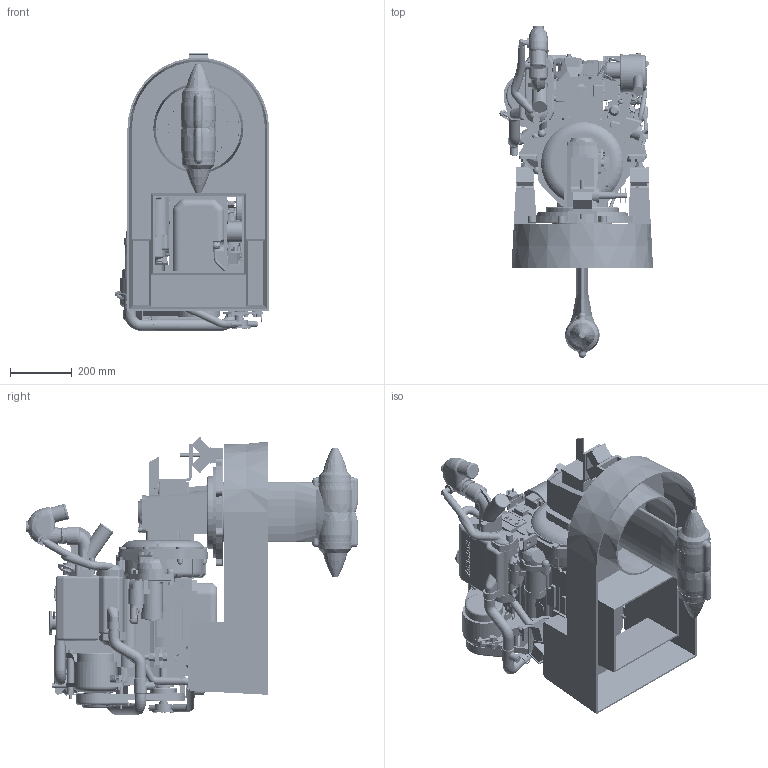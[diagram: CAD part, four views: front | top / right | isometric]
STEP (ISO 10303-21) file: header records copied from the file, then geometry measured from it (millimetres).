
FILE_DESCRIPTION((''),'2;1');
FILE_NAME('00_3YM30AE_ASM','2019-02-25T',('ib46307'),(''),'PRO/ENGINEER BY PARAMETRIC TECHNOLOGY CORPORATION, 2015360','PRO/ENGINEER BY PARAMETRIC TECHNOLOGY CORPORATION, 2015360','');
FILE_SCHEMA(('CONFIG_CONTROL_DESIGN'));
Products named in the file (116): D19E10-01100-3YM30AE-SW01-L_1; D19734-01200-3YM30AE-SW01-L_1; D28990-01300-3YM30AE-SW01-L_1; D19600-01320-3YM30AE-SW01-L_1; D28990-01400-3YM30AE-SW01-L_1; D28990-07350-3YM30AE-SW01-L_1; MANIFOLD_SOLID_BREP_29789; MANIFOLD_SOLID_BREP_31644; MANIFOLD_SOLID_BREP_33503; MANIFOLD_SOLID_BREP_35362; D28995-08100-SW01-L_1_ASM; D19E10-11110-3YM30AE-SW01-L_1; D19717-11300-3YM30AE-SW01-L_1; D28990-12300-3YM30AE-SW01-L_1; D28995-21200-SW01-L_1; D28995-21600-01-SW01-L_1; MANIFOLD_SOLID_BREP_68502; MANIFOLD_SOLID_BREP_68853; D28995-21600-02-SW01-L_1_ASM; MANIFOLD_SOLID_BREP_71430; MANIFOLD_SOLID_BREP_73693; D28990-34100-3YM30AE-SW01-L_1_ASM; D28990-34200-3YM27A-SW01-L_1; D19624-35100-3YM30AE-SW01-L_1; D19600-39100-3YM30AE-SW01-L_1; D19717-39100-3YM30AE-SW01-L_1; D19717-42100-3YM30AE-SW01-L_1; D28990-42210-3YM30AE-SW01-L_1; D28995-42500-SW01-L_1; D28990-44100-3YM30AE-SW01-L_1; MANIFOLD_SOLID_BREP_112009; MANIFOLD_SOLID_BREP_118697; MANIFOLD_SOLID_BREP_118887; D28990-49110-3YM30AE-SW02-L_3_ASM; D28990-49200-3YM30AE-SW01-L_1; MANIFOLD_SOLID_BREP_125143; MANIFOLD_SOLID_BREP_125870; D28990-49600-3YM30AE-SW01-L_1_ASM; D28990-49900-3YM27A-SW01-L_1; BREP_WITH_VOIDS_161685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
Assembly tree (115 placements, depth 6):
  00_3YM30AE_ASM
    00_BASE_ASM
      PUB-3YM30AE_ASM_7_ASM
        B2-28995-001X-L_ASM_2_ASM
          D19E10-01100-3YM30AE-SW01-L_1
          D19734-01200-3YM30AE-SW01-L_1
          D28990-01300-3YM30AE-SW01-L_1
          D19600-01320-3YM30AE-SW01-L_1
          D28990-01400-3YM30AE-SW01-L_1
          D28990-07350-3YM30AE-SW01-L_1
          D28995-08100-SW01-L_1_ASM
            MANIFOLD_SOLID_BREP_29789
            MANIFOLD_SOLID_BREP_31644
            MANIFOLD_SOLID_BREP_33503
            MANIFOLD_SOLID_BREP_35362
          D19E10-11110-3YM30AE-SW01-L_1
          D19717-11300-3YM30AE-SW01-L_1
          D28990-12300-3YM30AE-SW01-L_1
          D28995-21200-SW01-L_1
          D28995-21600-01-SW01-L_1
          D28995-21600-02-SW01-L_1_ASM
            MANIFOLD_SOLID_BREP_68502
            MANIFOLD_SOLID_BREP_68853
          D28990-34100-3YM30AE-SW01-L_1_ASM
            MANIFOLD_SOLID_BREP_71430
            MANIFOLD_SOLID_BREP_73693
          D28990-34200-3YM27A-SW01-L_1
          D19624-35100-3YM30AE-SW01-L_1
          D19600-39100-3YM30AE-SW01-L_1
          D19717-39100-3YM30AE-SW01-L_1
          D19717-42100-3YM30AE-SW01-L_1
          D28990-42210-3YM30AE-SW01-L_1
          D28995-42500-SW01-L_1
          D28990-44100-3YM30AE-SW01-L_1
          D28990-49110-3YM30AE-SW02-L_3_ASM
            MANIFOLD_SOLID_BREP_112009
            MANIFOLD_SOLID_BREP_118697
            MANIFOLD_SOLID_BREP_118887
          D28990-49200-3YM30AE-SW01-L_1
          D28990-49600-3YM30AE-SW01-L_1_ASM
            MANIFOLD_SOLID_BREP_125143
            MANIFOLD_SOLID_BREP_125870
          D28990-49900-3YM27A-SW01-L_1
          D28995-51350-SW01-L_1_ASM
            BREP_WITH_VOIDS_161685
            MANIFOLD_SOLID_BREP_163560
          D19C10-53100-3YM30AE-SW01-L_1_ASM
            MANIFOLD_SOLID_BREP_166274
            MANIFOLD_SOLID_BREP_168967
            MANIFOLD_SOLID_BREP_171672
          D28990-59300-3YM30AE-SW01-L_1_ASM
            MANIFOLD_SOLID_BREP_172915
            BREP_WITH_VOIDS_177282
            MANIFOLD_SOLID_BREP_177611
            MANIFOLD_SOLID_BREP_177940
            MANIFOLD_SOLID_BREP_179970
          D28990-55110-3YM30AE-SW01-L_1
          D19E10-59100-3YM30AE-SW01-L_1
          D28990-59200-3YM30AE-SW01-L_1_ASM
            MANIFOLD_SOLID_BREP_190046
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Bounding box: 499.26 x 1075.11 x 901.99 mm (x, y, z)
Volume: 88865923.2 mm3; surface area: 9588580 mm2
Topology: 82 solids, 94 shells, 9216 faces, 25039 edges, 16346 vertices
Faces by surface type: plane 4365, cylinder 3273, cone 650, torus 487, bspline 241, sphere 160, extrusion 40
Entity records: 320153 total; most frequent: CARTESIAN_POINT 82632, DIRECTION 50222, ORIENTED_EDGE 49646, EDGE_CURVE 24823, AXIS2_PLACEMENT_3D 18682, VERTEX_POINT 16345, VECTOR 12858, LINE 12818
